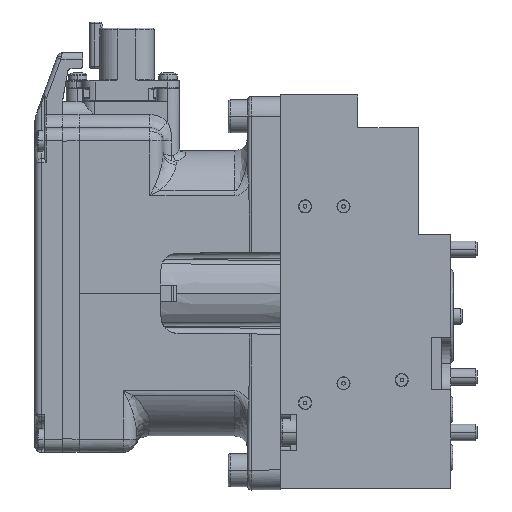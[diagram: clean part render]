
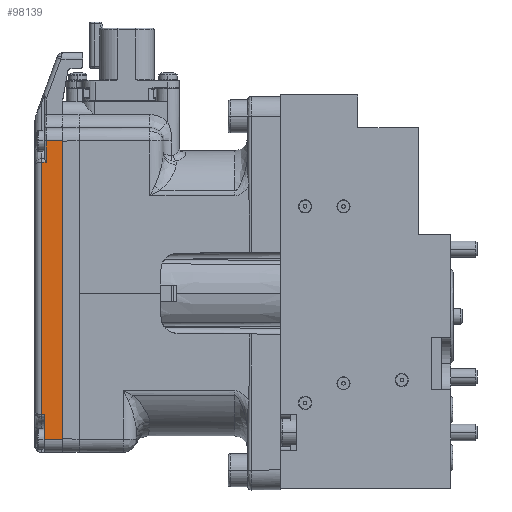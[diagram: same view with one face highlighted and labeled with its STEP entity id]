
A CAD part, top view. The second image highlights one B-rep face of the part: STEP entity #98139.
In plain terms, the highlighted planar face has unit normal (0, 0, 1) as drawn and (0, 0, -1) by its records, which use the part's own axes.
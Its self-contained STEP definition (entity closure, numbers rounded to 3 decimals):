
#402 = VECTOR ( 'NONE', #13424, 1000. ) ;
#2498 = ORIENTED_EDGE ( 'NONE', *, *, #48985, .F. ) ;
#3186 = DIRECTION ( 'NONE',  ( 0., 1., 0. ) ) ;
#3260 = ORIENTED_EDGE ( 'NONE', *, *, #70351, .T. ) ;
#3742 = CARTESIAN_POINT ( 'NONE',  ( 202.5, -44.5, -19. ) ) ;
#7380 = CARTESIAN_POINT ( 'NONE',  ( 203.5, 40., -19. ) ) ;
#7668 = EDGE_CURVE ( 'NONE', #114981, #38717, #73819, .T. ) ;
#8405 = VERTEX_POINT ( 'NONE', #24440 ) ;
#11098 = FACE_OUTER_BOUND ( 'NONE', #86578, .T. ) ;
#11498 = LINE ( 'NONE', #19085, #57130 ) ;
#13424 = DIRECTION ( 'NONE',  ( -1., 0., 0. ) ) ;
#13603 = DIRECTION ( 'NONE',  ( -1., 0., 0. ) ) ;
#15533 = VERTEX_POINT ( 'NONE', #24845 ) ;
#15552 = CARTESIAN_POINT ( 'NONE',  ( 202., -48.5, -19. ) ) ;
#19085 = CARTESIAN_POINT ( 'NONE',  ( 197., 46.49, -19. ) ) ;
#22148 = VERTEX_POINT ( 'NONE', #3742 ) ;
#24440 = CARTESIAN_POINT ( 'NONE',  ( 197., 46.49, -19. ) ) ;
#24845 = CARTESIAN_POINT ( 'NONE',  ( 202.5, -37., -19. ) ) ;
#25394 = VERTEX_POINT ( 'NONE', #54448 ) ;
#28624 = PLANE ( 'NONE',  #38957 ) ;
#30379 = CARTESIAN_POINT ( 'NONE',  ( 197., -37., -19. ) ) ;
#35010 = EDGE_CURVE ( 'NONE', #39908, #15533, #93273, .T. ) ;
#38543 = DIRECTION ( 'NONE',  ( 0., 0., -1. ) ) ;
#38717 = VERTEX_POINT ( 'NONE', #7380 ) ;
#38767 = ORIENTED_EDGE ( 'NONE', *, *, #35010, .T. ) ;
#38957 = AXIS2_PLACEMENT_3D ( 'NONE', #101437, #38543, #82217 ) ;
#39149 = LINE ( 'NONE', #56620, #83891 ) ;
#39908 = VERTEX_POINT ( 'NONE', #77241 ) ;
#41563 = ORIENTED_EDGE ( 'NONE', *, *, #58596, .T. ) ;
#41675 = VECTOR ( 'NONE', #68605, 1000. ) ;
#45133 = VECTOR ( 'NONE', #13603, 1000. ) ;
#48985 = EDGE_CURVE ( 'NONE', #25394, #8405, #11498, .T. ) ;
#54448 = CARTESIAN_POINT ( 'NONE',  ( 202., 46.49, -19. ) ) ;
#56620 = CARTESIAN_POINT ( 'NONE',  ( 202.5, -48.5, -19. ) ) ;
#57064 = ORIENTED_EDGE ( 'NONE', *, *, #88438, .T. ) ;
#57130 = VECTOR ( 'NONE', #100107, 1000. ) ;
#57227 = VERTEX_POINT ( 'NONE', #57527 ) ;
#57527 = CARTESIAN_POINT ( 'NONE',  ( 197., -44.5, -19. ) ) ;
#57926 = LINE ( 'NONE', #93452, #45133 ) ;
#58596 = EDGE_CURVE ( 'NONE', #38717, #39908, #60778, .T. ) ;
#60778 = LINE ( 'NONE', #96310, #103836 ) ;
#66150 = CARTESIAN_POINT ( 'NONE',  ( 197., 10., -19. ) ) ;
#66282 = EDGE_CURVE ( 'NONE', #15533, #22148, #39149, .T. ) ;
#68605 = DIRECTION ( 'NONE',  ( 0., -1., 0. ) ) ;
#70351 = EDGE_CURVE ( 'NONE', #25394, #114981, #104166, .T. ) ;
#73516 = DIRECTION ( 'NONE',  ( 0., -1., 0. ) ) ;
#73819 = LINE ( 'NONE', #92445, #82541 ) ;
#76753 = CARTESIAN_POINT ( 'NONE',  ( 202., 40., -19. ) ) ;
#77241 = CARTESIAN_POINT ( 'NONE',  ( 203.5, -37., -19. ) ) ;
#77940 = VECTOR ( 'NONE', #3186, 1000. ) ;
#80273 = ORIENTED_EDGE ( 'NONE', *, *, #66282, .T. ) ;
#82217 = DIRECTION ( 'NONE',  ( -1., 0., 0. ) ) ;
#82541 = VECTOR ( 'NONE', #109966, 1000. ) ;
#83075 = LINE ( 'NONE', #66150, #77940 ) ;
#83891 = VECTOR ( 'NONE', #73516, 1000. ) ;
#86578 = EDGE_LOOP ( 'NONE', ( #2498, #3260, #93855, #41563, #38767, #80273, #57064, #112485 ) ) ;
#87556 = DIRECTION ( 'NONE',  ( 0., -1., 0. ) ) ;
#88438 = EDGE_CURVE ( 'NONE', #22148, #57227, #57926, .T. ) ;
#92445 = CARTESIAN_POINT ( 'NONE',  ( 197., 40., -19. ) ) ;
#93273 = LINE ( 'NONE', #30379, #402 ) ;
#93452 = CARTESIAN_POINT ( 'NONE',  ( 197., -44.5, -19. ) ) ;
#93855 = ORIENTED_EDGE ( 'NONE', *, *, #7668, .T. ) ;
#96310 = CARTESIAN_POINT ( 'NONE',  ( 203.5, 40., -19. ) ) ;
#97574 = EDGE_CURVE ( 'NONE', #57227, #8405, #83075, .T. ) ;
#98139 = ADVANCED_FACE ( 'NONE', ( #11098 ), #28624, .T. ) ;
#100107 = DIRECTION ( 'NONE',  ( -1., 0., 0. ) ) ;
#101437 = CARTESIAN_POINT ( 'NONE',  ( 197., -48.5, -19. ) ) ;
#103836 = VECTOR ( 'NONE', #87556, 1000. ) ;
#104166 = LINE ( 'NONE', #15552, #41675 ) ;
#109966 = DIRECTION ( 'NONE',  ( 1., 0., 0. ) ) ;
#112485 = ORIENTED_EDGE ( 'NONE', *, *, #97574, .T. ) ;
#114981 = VERTEX_POINT ( 'NONE', #76753 ) ;
